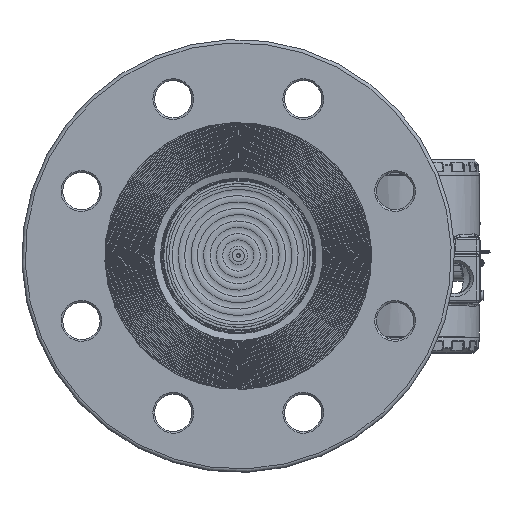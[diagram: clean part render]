
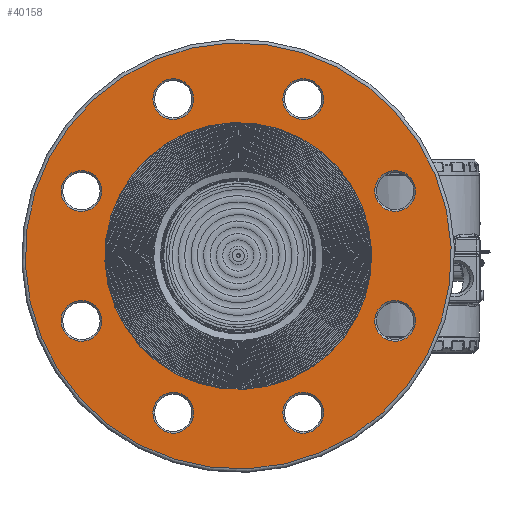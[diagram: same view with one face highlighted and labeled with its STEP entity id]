
A CAD part, top view. The second image highlights one B-rep face of the part: STEP entity #40158.
In plain terms, the highlighted planar face has unit normal (0, 0, 1).
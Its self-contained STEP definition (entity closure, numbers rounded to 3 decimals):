
#759=FACE_BOUND('',#6826,.T.);
#760=FACE_BOUND('',#6827,.T.);
#761=FACE_BOUND('',#6828,.T.);
#762=FACE_BOUND('',#6829,.T.);
#763=FACE_BOUND('',#6830,.T.);
#764=FACE_BOUND('',#6831,.T.);
#765=FACE_BOUND('',#6832,.T.);
#766=FACE_BOUND('',#6833,.T.);
#767=FACE_BOUND('',#6834,.T.);
#2850=PLANE('',#44564);
#4088=FACE_OUTER_BOUND('',#6825,.T.);
#6825=EDGE_LOOP('',(#30540));
#6826=EDGE_LOOP('',(#30541));
#6827=EDGE_LOOP('',(#30542));
#6828=EDGE_LOOP('',(#30543));
#6829=EDGE_LOOP('',(#30544));
#6830=EDGE_LOOP('',(#30545));
#6831=EDGE_LOOP('',(#30546));
#6832=EDGE_LOOP('',(#30547));
#6833=EDGE_LOOP('',(#30548));
#6834=EDGE_LOOP('',(#30549));
#12820=CIRCLE('',#44561,125.5);
#12822=CIRCLE('',#44565,12.);
#12823=CIRCLE('',#44566,12.);
#12824=CIRCLE('',#44567,12.);
#12825=CIRCLE('',#44568,12.);
#12826=CIRCLE('',#44569,78.6);
#12827=CIRCLE('',#44570,12.);
#12828=CIRCLE('',#44571,12.);
#12829=CIRCLE('',#44572,12.);
#12830=CIRCLE('',#44573,12.);
#17516=VERTEX_POINT('',#71440);
#17518=VERTEX_POINT('',#71448);
#17519=VERTEX_POINT('',#71450);
#17520=VERTEX_POINT('',#71452);
#17521=VERTEX_POINT('',#71454);
#17522=VERTEX_POINT('',#71456);
#17523=VERTEX_POINT('',#71458);
#17524=VERTEX_POINT('',#71460);
#17525=VERTEX_POINT('',#71462);
#17526=VERTEX_POINT('',#71464);
#22128=EDGE_CURVE('',#17516,#17516,#12820,.T.);
#22131=EDGE_CURVE('',#17518,#17518,#12822,.T.);
#22132=EDGE_CURVE('',#17519,#17519,#12823,.T.);
#22133=EDGE_CURVE('',#17520,#17520,#12824,.T.);
#22134=EDGE_CURVE('',#17521,#17521,#12825,.T.);
#22135=EDGE_CURVE('',#17522,#17522,#12826,.T.);
#22136=EDGE_CURVE('',#17523,#17523,#12827,.T.);
#22137=EDGE_CURVE('',#17524,#17524,#12828,.T.);
#22138=EDGE_CURVE('',#17525,#17525,#12829,.T.);
#22139=EDGE_CURVE('',#17526,#17526,#12830,.T.);
#30540=ORIENTED_EDGE('',*,*,#22128,.F.);
#30541=ORIENTED_EDGE('',*,*,#22131,.F.);
#30542=ORIENTED_EDGE('',*,*,#22132,.F.);
#30543=ORIENTED_EDGE('',*,*,#22133,.F.);
#30544=ORIENTED_EDGE('',*,*,#22134,.F.);
#30545=ORIENTED_EDGE('',*,*,#22135,.F.);
#30546=ORIENTED_EDGE('',*,*,#22136,.F.);
#30547=ORIENTED_EDGE('',*,*,#22137,.F.);
#30548=ORIENTED_EDGE('',*,*,#22138,.F.);
#30549=ORIENTED_EDGE('',*,*,#22139,.F.);
#40158=ADVANCED_FACE('',(#4088,#759,#760,#761,#762,#763,#764,#765,#766,
#767),#2850,.T.);
#44561=AXIS2_PLACEMENT_3D('',#71442,#52732,#52733);
#44564=AXIS2_PLACEMENT_3D('',#71447,#52739,#52740);
#44565=AXIS2_PLACEMENT_3D('',#71449,#52741,#52742);
#44566=AXIS2_PLACEMENT_3D('',#71451,#52743,#52744);
#44567=AXIS2_PLACEMENT_3D('',#71453,#52745,#52746);
#44568=AXIS2_PLACEMENT_3D('',#71455,#52747,#52748);
#44569=AXIS2_PLACEMENT_3D('',#71457,#52749,#52750);
#44570=AXIS2_PLACEMENT_3D('',#71459,#52751,#52752);
#44571=AXIS2_PLACEMENT_3D('',#71461,#52753,#52754);
#44572=AXIS2_PLACEMENT_3D('',#71463,#52755,#52756);
#44573=AXIS2_PLACEMENT_3D('',#71465,#52757,#52758);
#52732=DIRECTION('center_axis',(0.,0.,-1.));
#52733=DIRECTION('ref_axis',(-1.,0.,0.));
#52739=DIRECTION('center_axis',(0.,0.,1.));
#52740=DIRECTION('ref_axis',(1.,0.,0.));
#52741=DIRECTION('center_axis',(0.,0.,1.));
#52742=DIRECTION('ref_axis',(-0.707,0.707,0.));
#52743=DIRECTION('center_axis',(0.,0.,1.));
#52744=DIRECTION('ref_axis',(0.707,0.707,0.));
#52745=DIRECTION('center_axis',(0.,0.,1.));
#52746=DIRECTION('ref_axis',(-0.707,-0.707,0.));
#52747=DIRECTION('center_axis',(0.,0.,1.));
#52748=DIRECTION('ref_axis',(0.,-1.,0.));
#52749=DIRECTION('center_axis',(0.,0.,1.));
#52750=DIRECTION('ref_axis',(-1.,0.,0.));
#52751=DIRECTION('center_axis',(0.,0.,1.));
#52752=DIRECTION('ref_axis',(0.707,-0.707,0.));
#52753=DIRECTION('center_axis',(0.,0.,1.));
#52754=DIRECTION('ref_axis',(-1.,0.,0.));
#52755=DIRECTION('center_axis',(0.,0.,1.));
#52756=DIRECTION('ref_axis',(1.,0.,0.));
#52757=DIRECTION('center_axis',(0.,0.,1.));
#52758=DIRECTION('ref_axis',(0.,1.,0.));
#71440=CARTESIAN_POINT('',(125.5,0.,30.2));
#71442=CARTESIAN_POINT('Origin',(0.,0.,30.2));
#71447=CARTESIAN_POINT('Origin',(0.,0.,30.2));
#71448=CARTESIAN_POINT('',(79.196,62.225,30.2));
#71449=CARTESIAN_POINT('Origin',(70.711,70.711,30.2));
#71450=CARTESIAN_POINT('',(62.225,-79.196,30.2));
#71451=CARTESIAN_POINT('Origin',(70.711,-70.711,30.2));
#71452=CARTESIAN_POINT('',(-62.225,79.196,30.2));
#71453=CARTESIAN_POINT('Origin',(-70.711,70.711,30.2));
#71454=CARTESIAN_POINT('',(-100.,12.,30.2));
#71455=CARTESIAN_POINT('Origin',(-100.,0.,30.2));
#71456=CARTESIAN_POINT('',(78.6,0.,30.2));
#71457=CARTESIAN_POINT('Origin',(0.,0.,30.2));
#71458=CARTESIAN_POINT('',(-79.196,-62.225,30.2));
#71459=CARTESIAN_POINT('Origin',(-70.711,-70.711,30.2));
#71460=CARTESIAN_POINT('',(12.,100.,30.2));
#71461=CARTESIAN_POINT('Origin',(0.,100.,30.2));
#71462=CARTESIAN_POINT('',(-12.,-100.,30.2));
#71463=CARTESIAN_POINT('Origin',(0.,-100.,30.2));
#71464=CARTESIAN_POINT('',(100.,-12.,30.2));
#71465=CARTESIAN_POINT('Origin',(100.,0.,30.2));
